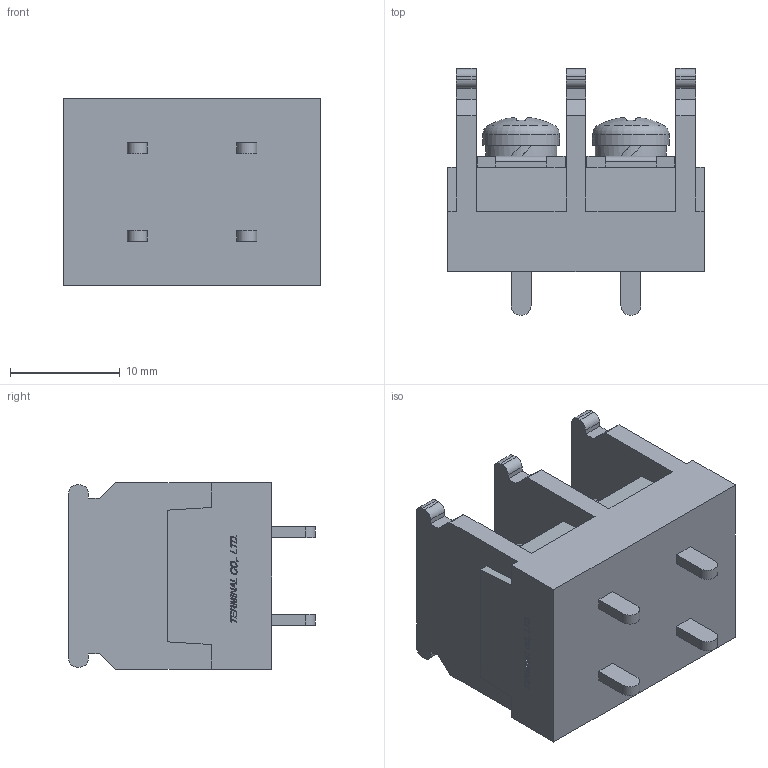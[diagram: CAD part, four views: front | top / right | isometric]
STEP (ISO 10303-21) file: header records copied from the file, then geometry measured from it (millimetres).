
FILE_DESCRIPTION(/* description */ ('Alibre Inc.'),/* implementation_level */ '2;1');
FILE_NAME(/* name */ 'export0',/* time_stamp */ '2015-10-17T15:29:10+09:00',/* author */ (''),/* organization */ (''),/* preprocessor_version */ 'ST-DEVELOPER v14',/* originating_system */ 'Alibre',/* authorisation */ '');
FILE_SCHEMA (('CONFIG_CONTROL_DESIGN'));
Length unit declared in the file: centimetre
Products named in the file (1): ID_1
Bounding box: 23.4 x 22.5 x 17 mm (x, y, z)
Volume: 4584.3 mm3; surface area: 3023.3 mm2
Topology: 1 solids, 17 shells, 552 faces, 1464 edges, 974 vertices
Faces by surface type: plane 408, bspline 104, cylinder 26, cone 8, torus 4, sphere 2
Full cylindrical faces by diameter (mm): 4 x2, 6.5 x2, 7 x2
Entity records: 16582 total; most frequent: CARTESIAN_POINT 3951, ORIENTED_EDGE 2900, DIRECTION 1806, EDGE_CURVE 1450, VECTOR 1116, LINE 1116, VERTEX_POINT 968, EDGE_LOOP 600
